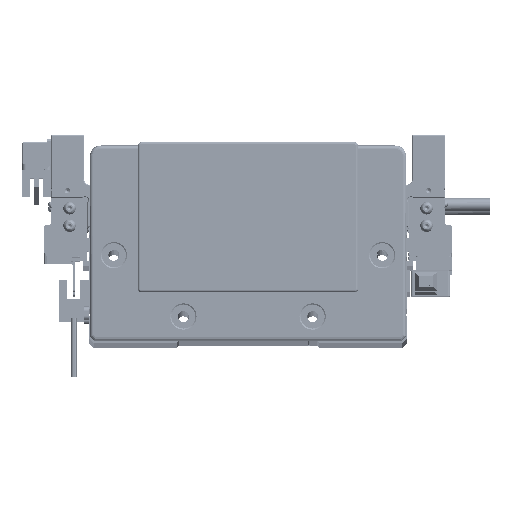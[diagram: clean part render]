
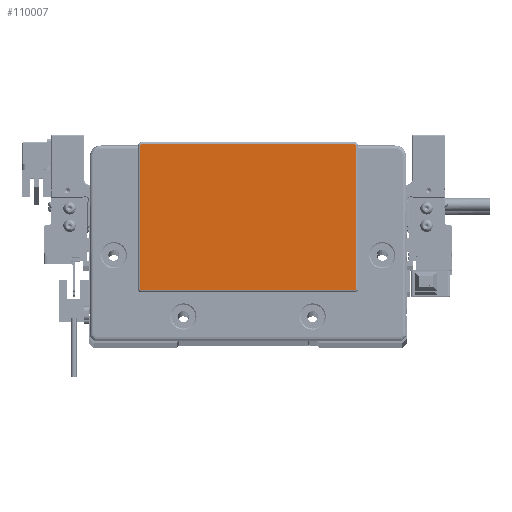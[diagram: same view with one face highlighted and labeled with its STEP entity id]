
A CAD part, top view. The second image highlights one B-rep face of the part: STEP entity #110007.
In plain terms, the highlighted planar face has unit normal (0, 0, 1) as drawn and (0, 0, -1) by its records, which use the part's own axes.
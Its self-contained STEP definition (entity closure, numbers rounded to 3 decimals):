
#958 = EDGE_CURVE ( 'NONE', #92622, #50805, #112503, .T. ) ;
#2161 = VECTOR ( 'NONE', #21873, 1000. ) ;
#3160 = CARTESIAN_POINT ( 'NONE',  ( -48.75, 43.8, -2. ) ) ;
#3182 = CARTESIAN_POINT ( 'NONE',  ( 49.25, -21.8, -2. ) ) ;
#5171 = ORIENTED_EDGE ( 'NONE', *, *, #60328, .T. ) ;
#5609 = EDGE_CURVE ( 'NONE', #43116, #33578, #43683, .T. ) ;
#7369 = ORIENTED_EDGE ( 'NONE', *, *, #98482, .T. ) ;
#7416 = EDGE_CURVE ( 'NONE', #50805, #67047, #90354, .T. ) ;
#13597 = CARTESIAN_POINT ( 'NONE',  ( -49.25, -21.8, -2. ) ) ;
#14137 = EDGE_CURVE ( 'NONE', #33578, #36545, #46516, .T. ) ;
#14883 = CIRCLE ( 'NONE', #107825, 0.5 ) ;
#16375 = DIRECTION ( 'NONE',  ( 0., 0., -1. ) ) ;
#21873 = DIRECTION ( 'NONE',  ( 0., 1., 0. ) ) ;
#25210 = DIRECTION ( 'NONE',  ( -1., 0., 0. ) ) ;
#25495 = PLANE ( 'NONE',  #33174 ) ;
#27593 = ORIENTED_EDGE ( 'NONE', *, *, #7416, .T. ) ;
#28435 = CARTESIAN_POINT ( 'NONE',  ( -49.25, 43.8, -2. ) ) ;
#30401 = CARTESIAN_POINT ( 'NONE',  ( -49.25, 43.8, -2. ) ) ;
#30403 = CARTESIAN_POINT ( 'NONE',  ( 49.25, -21.8, -2. ) ) ;
#33174 = AXIS2_PLACEMENT_3D ( 'NONE', #41992, #16375, #85969 ) ;
#33190 = DIRECTION ( 'NONE',  ( 0., 0., -1. ) ) ;
#33578 = VERTEX_POINT ( 'NONE', #84259 ) ;
#33790 = VECTOR ( 'NONE', #51683, 1000. ) ;
#35569 = DIRECTION ( 'NONE',  ( 0., 0., -1. ) ) ;
#36182 = LINE ( 'NONE', #96151, #72443 ) ;
#36545 = VERTEX_POINT ( 'NONE', #30403 ) ;
#37665 = CARTESIAN_POINT ( 'NONE',  ( -48.75, 44.3, -2. ) ) ;
#41944 = CARTESIAN_POINT ( 'NONE',  ( -48.75, -22.3, -2. ) ) ;
#41992 = CARTESIAN_POINT ( 'NONE',  ( 0., 0., -2. ) ) ;
#43116 = VERTEX_POINT ( 'NONE', #97926 ) ;
#43683 = CIRCLE ( 'NONE', #71047, 0.5 ) ;
#46294 = CARTESIAN_POINT ( 'NONE',  ( -48.75, -22.3, -2. ) ) ;
#46516 = LINE ( 'NONE', #3182, #104292 ) ;
#50805 = VERTEX_POINT ( 'NONE', #13597 ) ;
#51250 = DIRECTION ( 'NONE',  ( 0., 0., -1. ) ) ;
#51683 = DIRECTION ( 'NONE',  ( -1., 0., 0. ) ) ;
#53290 = DIRECTION ( 'NONE',  ( -1., 0., 0. ) ) ;
#54059 = ORIENTED_EDGE ( 'NONE', *, *, #14137, .T. ) ;
#56900 = ORIENTED_EDGE ( 'NONE', *, *, #65257, .T. ) ;
#57882 = EDGE_CURVE ( 'NONE', #96804, #92622, #77334, .T. ) ;
#60328 = EDGE_CURVE ( 'NONE', #111155, #43116, #36182, .T. ) ;
#65257 = EDGE_CURVE ( 'NONE', #36545, #96804, #87708, .T. ) ;
#67047 = VERTEX_POINT ( 'NONE', #28435 ) ;
#69573 = ORIENTED_EDGE ( 'NONE', *, *, #958, .T. ) ;
#71047 = AXIS2_PLACEMENT_3D ( 'NONE', #93402, #35569, #53290 ) ;
#72443 = VECTOR ( 'NONE', #78444, 1000. ) ;
#76816 = FACE_OUTER_BOUND ( 'NONE', #100823, .T. ) ;
#77334 = LINE ( 'NONE', #41944, #33790 ) ;
#78444 = DIRECTION ( 'NONE',  ( 1., 0., 0. ) ) ;
#79661 = AXIS2_PLACEMENT_3D ( 'NONE', #95191, #51250, #104852 ) ;
#82196 = AXIS2_PLACEMENT_3D ( 'NONE', #102240, #33190, #25210 ) ;
#84259 = CARTESIAN_POINT ( 'NONE',  ( 49.25, 43.8, -2. ) ) ;
#85367 = CARTESIAN_POINT ( 'NONE',  ( 48.75, -22.3, -2. ) ) ;
#85969 = DIRECTION ( 'NONE',  ( -1., 0., 0. ) ) ;
#87708 = CIRCLE ( 'NONE', #82196, 0.5 ) ;
#90354 = LINE ( 'NONE', #30401, #2161 ) ;
#90997 = DIRECTION ( 'NONE',  ( -1., 0., 0. ) ) ;
#92622 = VERTEX_POINT ( 'NONE', #46294 ) ;
#93402 = CARTESIAN_POINT ( 'NONE',  ( 48.75, 43.8, -2. ) ) ;
#95191 = CARTESIAN_POINT ( 'NONE',  ( -48.75, -21.8, -2. ) ) ;
#96151 = CARTESIAN_POINT ( 'NONE',  ( 48.75, 44.3, -2. ) ) ;
#96804 = VERTEX_POINT ( 'NONE', #85367 ) ;
#97926 = CARTESIAN_POINT ( 'NONE',  ( 48.75, 44.3, -2. ) ) ;
#98482 = EDGE_CURVE ( 'NONE', #67047, #111155, #14883, .T. ) ;
#100823 = EDGE_LOOP ( 'NONE', ( #54059, #56900, #108677, #69573, #27593, #7369, #5171, #112242 ) ) ;
#102240 = CARTESIAN_POINT ( 'NONE',  ( 48.75, -21.8, -2. ) ) ;
#104292 = VECTOR ( 'NONE', #108143, 1000. ) ;
#104852 = DIRECTION ( 'NONE',  ( -1., 0., 0. ) ) ;
#107825 = AXIS2_PLACEMENT_3D ( 'NONE', #3160, #108118, #90997 ) ;
#108118 = DIRECTION ( 'NONE',  ( 0., 0., -1. ) ) ;
#108143 = DIRECTION ( 'NONE',  ( 0., -1., 0. ) ) ;
#108677 = ORIENTED_EDGE ( 'NONE', *, *, #57882, .T. ) ;
#110007 = ADVANCED_FACE ( 'NONE', ( #76816 ), #25495, .T. ) ;
#111155 = VERTEX_POINT ( 'NONE', #37665 ) ;
#112242 = ORIENTED_EDGE ( 'NONE', *, *, #5609, .T. ) ;
#112503 = CIRCLE ( 'NONE', #79661, 0.5 ) ;
